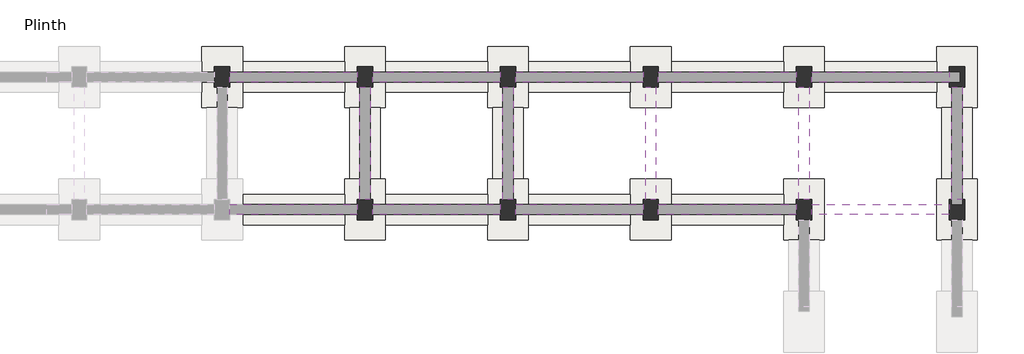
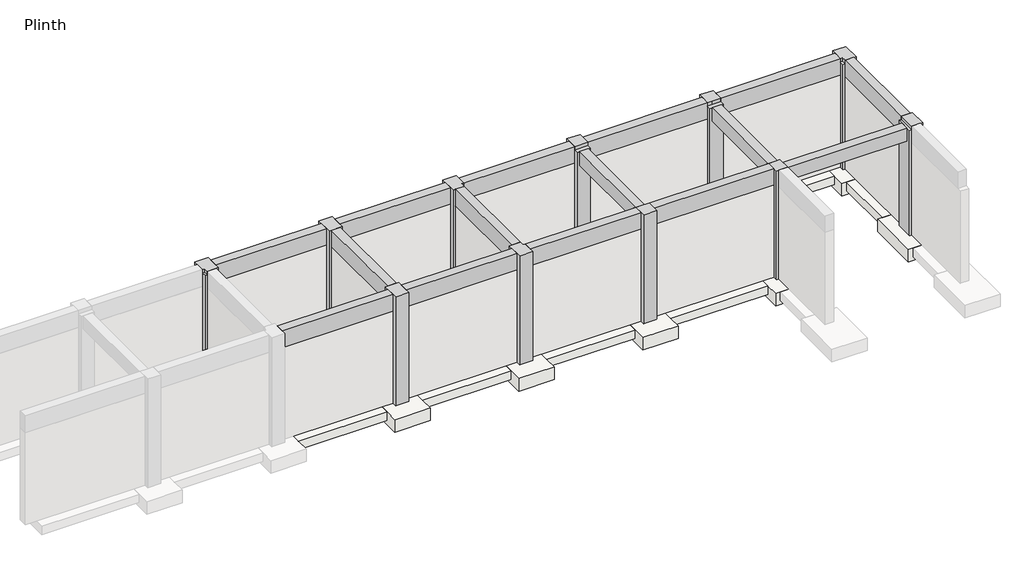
# One storey, part 3 of 3: 15 beams, 13 footings, 11 columns, 11 slabs.
"""IFC4 building model written with IfcOpenShell, lengths in millimetres."""

from ifc_helpers import new_model, si_unit, frame, origin, origin_with_axes, place, context, project, spatial, polyline, outline, extrude, faceted_brep, element, save

model = new_model("IFC4")

# Units and contexts
model_context = context("Model", 3, world=origin())
ifc_project = project(units=[si_unit("LENGTHUNIT", "METRE", prefix="MILLI")], contexts=[model_context])

# Site, building, storey
site = spatial("IfcSite", under=ifc_project)
building = spatial("IfcBuilding", under=site)
storey = spatial("IfcBuildingStorey", under=building, Name="Plinth", Elevation=304.8)

# Beams
placement = place(None, origin())
element("IfcBeam", 1, ObjectType="Concrete-Rectangular Beam : 12 x 24", at=placement, inside=storey, context=model_context, shape_type="SweptSolid", body=[
    extrude(outline(polyline([(-11678.9781752, 17712.9470864), (-11983.7781752, 17712.9470864), (-11983.7781752, 21065.7470864), (-11678.9781752, 21065.7470864), (-11678.9781752, 17712.9470864)])), frame((0.0, 0.0, 3657.6), z_axis=(0.0, 0.0, 1.0), x_axis=(1.0, 0.0, 0.0)), (0.0, 0.0, 1.0), 482.6),
])
element("IfcBeam", 2, ObjectType="Concrete-Rectangular Beam : 12 x 24", at=placement, inside=storey, context=model_context, shape_type="SweptSolid", body=[
    extrude(outline(polyline([(-7411.7781752, 21065.7470864), (-7106.9781752, 21065.7470864), (-7106.9781752, 17712.9470864), (-7411.7781752, 17712.9470864), (-7411.7781752, 21065.7470864)])), frame((0.0, 0.0, 3657.6), z_axis=(0.0, 0.0, 1.0), x_axis=(1.0, 0.0, 0.0)), (0.0, 0.0, 1.0), 482.6),
])
element("IfcBeam", 3, ObjectType="Concrete-Rectangular Beam : 12 x 24", at=placement, inside=storey, context=model_context, shape_type="SweptSolid", body=[
    extrude(outline(polyline([(-7030.7781752, 17255.7470864), (-7030.7781752, 17560.5470864), (-2915.9781752, 17560.5470864), (-2915.9781752, 17255.7470864), (-7030.7781752, 17255.7470864)])), frame((0.0, 0.0, 3657.6), z_axis=(0.0, 0.0, 1.0), x_axis=(1.0, 0.0, 0.0)), (0.0, 0.0, 1.0), 482.6),
])
element("IfcBeam", 4, ObjectType="Concrete-Rectangular Beam : 12 x 24", at=placement, inside=storey, context=model_context, shape_type="SweptSolid", body=[
    extrude(outline(polyline([(-20518.1781752, 21065.7470864), (-20213.3781752, 21065.7470864), (-20213.3781752, 17712.9470864), (-20518.1781752, 17712.9470864), (-20518.1781752, 21065.7470864)])), frame((0.0, 0.0, 3657.6), z_axis=(0.0, 0.0, 1.0), x_axis=(1.0, 0.0, 0.0)), (0.0, 0.0, 1.0), 609.6),
])
element("IfcBeam", 5, ObjectType="Concrete-Rectangular Beam : 12 x 24", at=placement, inside=storey, context=model_context, shape_type="SweptSolid", body=[
    extrude(outline(polyline([(-20137.1781752, 21218.1470864), (-20137.1781752, 21522.9470864), (-16327.1781752, 21522.9470864), (-16327.1781752, 21218.1470864), (-20137.1781752, 21218.1470864)])), frame((0.0, 0.0, 3657.6), z_axis=(0.0, 0.0, 1.0), x_axis=(1.0, 0.0, 0.0)), (0.0, 0.0, 1.0), 609.6),
])
element("IfcBeam", 6, ObjectType="Concrete-Rectangular Beam : 12 x 24", at=placement, inside=storey, context=model_context, shape_type="Brep", body=[
    faceted_brep([(-15869.9781752, 21522.9470864, 4267.2), (-15869.9781752, 21218.1470864, 4267.2), (-12059.9781752, 21218.1470864, 4267.2), (-12059.9781752, 21522.9470864, 4267.2), (-15869.9781752, 21218.1470864, 4140.2), (-15869.9781752, 21218.1470864, 3657.6), (-12059.9781752, 21218.1470864, 3657.6), (-12059.9781752, 21218.1470864, 4140.2), (-15869.9781752, 21522.9470864, 3657.6), (-12059.9781752, 21522.9470864, 3657.6)], [[[0, 1, 2, 3]], [[1, 4, 5, 6, 7, 2]], [[5, 8, 9, 6]], [[8, 0, 3, 9]], [[1, 0, 8, 5, 4]], [[3, 2, 7, 6, 9]]]),
])
element("IfcBeam", 7, ObjectType="Concrete-Rectangular Beam : 12 x 24", at=placement, inside=storey, context=model_context, shape_type="Brep", body=[
    faceted_brep([(-11602.7781752, 21522.9470864, 4267.2), (-11602.7781752, 21218.1470864, 4267.2), (-7487.9781752, 21218.1470864, 4267.2), (-7487.9781752, 21522.9470864, 4267.2), (-11602.7781752, 21218.1470864, 4140.2), (-11602.7781752, 21218.1470864, 3657.6), (-7487.9781752, 21218.1470864, 3657.6), (-7487.9781752, 21218.1470864, 4140.2), (-11602.7781752, 21522.9470864, 3657.6), (-7487.9781752, 21522.9470864, 3657.6)], [[[0, 1, 2, 3]], [[1, 4, 5, 6, 7, 2]], [[5, 8, 9, 6]], [[8, 0, 3, 9]], [[1, 0, 8, 5, 4]], [[3, 2, 7, 6, 9]]]),
])
element("IfcBeam", 8, ObjectType="Concrete-Rectangular Beam : 12 x 24", at=placement, inside=storey, context=model_context, shape_type="Brep", body=[
    faceted_brep([(-7030.7781752, 21522.9470864, 4267.2), (-7030.7781752, 21218.1470864, 4267.2), (-2915.9781752, 21218.1470864, 4267.2), (-2915.9781752, 21522.9470864, 4267.2), (-7030.7781752, 21218.1470864, 4140.2), (-7030.7781752, 21218.1470864, 3657.6), (-2915.9781752, 21218.1470864, 3657.6), (-2915.9781752, 21218.1470864, 4140.2), (-7030.7781752, 21522.9470864, 3657.6), (-2915.9781752, 21522.9470864, 3657.6)], [[[0, 1, 2, 3]], [[1, 4, 5, 6, 7, 2]], [[5, 8, 9, 6]], [[8, 0, 3, 9]], [[1, 0, 8, 5, 4]], [[3, 2, 7, 6, 9]]]),
])
element("IfcBeam", 9, ObjectType="Concrete-Rectangular Beam : 12 x 24", at=placement, inside=storey, context=model_context, shape_type="Brep", body=[
    faceted_brep([(-15946.1781752, 21065.7470864, 4267.2), (-16250.9781752, 21065.7470864, 4267.2), (-16250.9781752, 17712.9470864, 4267.2), (-15946.1781752, 17712.9470864, 4267.2), (-16250.9781752, 21065.7470864, 3657.6), (-16250.9781752, 17712.9470864, 3657.6), (-15946.1781752, 21065.7470864, 3657.6), (-15946.1781752, 17712.9470864, 3657.6), (-15946.1781752, 21065.7470864, 4140.2), (-15946.1781752, 17712.9470864, 4140.2)], [[[0, 1, 2, 3]], [[1, 4, 5, 2]], [[4, 6, 7, 5]], [[6, 8, 0, 3, 9, 7]], [[1, 0, 8, 6, 4]], [[3, 2, 5, 7, 9]]]),
])
element("IfcBeam", 10, ObjectType="Concrete-Rectangular Beam : 12 x 24", at=placement, inside=storey, context=model_context, shape_type="Brep", body=[
    faceted_brep([(-2534.9781752, 21065.7470864, 4267.2), (-2839.7781752, 21065.7470864, 4267.2), (-2839.7781752, 17712.9470864, 4267.2), (-2534.9781752, 17712.9470864, 4267.2), (-2839.7781752, 21065.7470864, 4140.2), (-2839.7781752, 21065.7470864, 3657.6), (-2839.7781752, 17712.9470864, 3657.6), (-2839.7781752, 17712.9470864, 4140.2), (-2534.9781752, 21065.7470864, 3657.6), (-2534.9781752, 17712.9470864, 3657.6)], [[[0, 1, 2, 3]], [[1, 4, 5, 6, 7, 2]], [[5, 8, 9, 6]], [[8, 0, 3, 9]], [[1, 0, 8, 5, 4]], [[3, 2, 7, 6, 9]]]),
])
element("IfcBeam", 11, ObjectType="Concrete-Rectangular Beam : 12 x 24", at=placement, inside=storey, context=model_context, shape_type="Brep", body=[
    faceted_brep([(-11602.7781752, 17560.5470864, 4267.2), (-11602.7781752, 17255.7470864, 4267.2), (-7487.9781752, 17255.7470864, 4267.2), (-7487.9781752, 17560.5470864, 4267.2), (-11602.7781752, 17255.7470864, 3657.6), (-7487.9781752, 17255.7470864, 3657.6), (-11602.7781752, 17560.5470864, 3657.6), (-7487.9781752, 17560.5470864, 3657.6), (-7487.9781752, 17560.5470864, 4140.2), (-11602.7781752, 17560.5470864, 4140.2)], [[[0, 1, 2, 3]], [[1, 4, 5, 2]], [[4, 6, 7, 5]], [[0, 3, 8, 7, 6, 9]], [[1, 0, 9, 6, 4]], [[3, 2, 5, 7, 8]]]),
])
element("IfcBeam", 12, ObjectType="Concrete-Rectangular Beam : 12 x 24", at=placement, inside=storey, context=model_context, shape_type="SweptSolid", body=[
    extrude(outline(polyline([(-20137.1781752, 17255.7470864), (-20137.1781752, 17560.5470864), (-16327.1781752, 17560.5470864), (-16327.1781752, 17255.7470864), (-20137.1781752, 17255.7470864)])), frame((0.0, 0.0, 3657.6), z_axis=(0.0, 0.0, 1.0), x_axis=(1.0, 0.0, 0.0)), (0.0, 0.0, 1.0), 609.6),
])
element("IfcBeam", 13, ObjectType="Concrete-Rectangular Beam : 12 x 24", at=placement, inside=storey, context=model_context, shape_type="Brep", body=[
    faceted_brep([(-12059.9781752, 17560.5470864, 4267.2), (-15869.9781752, 17560.5470864, 4267.2), (-15869.9781752, 17255.7470864, 4267.2), (-12059.9781752, 17255.7470864, 4267.2), (-15869.9781752, 17255.7470864, 3657.6), (-12059.9781752, 17255.7470864, 3657.6), (-15869.9781752, 17560.5470864, 3657.6), (-12059.9781752, 17560.5470864, 3657.6), (-12059.9781752, 17560.5470864, 4140.2), (-15869.9781752, 17560.5470864, 4140.2)], [[[0, 1, 2, 3]], [[3, 2, 4, 5]], [[5, 4, 6, 7]], [[1, 0, 8, 7, 6, 9]], [[2, 1, 9, 6, 4]], [[0, 3, 5, 7, 8]]]),
])
element("IfcBeam", 14, ObjectType="Concrete-Rectangular Beam : 12 x 24", at=placement, inside=storey, context=model_context, shape_type="SweptSolid", body=[
    extrude(outline(polyline([(-24404.3781752, 21218.1470864), (-24404.3781752, 21522.9470864), (-20594.3781752, 21522.9470864), (-20594.3781752, 21218.1470864), (-24404.3781752, 21218.1470864)])), frame((0.0, 0.0, 3657.6), z_axis=(0.0, 0.0, 1.0), x_axis=(1.0, 0.0, 0.0)), (0.0, 0.0, 1.0), 609.6),
])
element("IfcBeam", 15, ObjectType="Concrete-Rectangular Beam : 12 x 24", at=placement, inside=storey, context=model_context, shape_type="SweptSolid", body=[
    extrude(outline(polyline([(-20594.3781752, 17560.5470864), (-20594.3781752, 17255.7470864), (-24404.3781752, 17255.7470864), (-24404.3781752, 17560.5470864), (-20594.3781752, 17560.5470864)])), frame((0.0, 0.0, 3657.6), z_axis=(0.0, 0.0, 1.0), x_axis=(1.0, 0.0, 0.0)), (0.0, 0.0, 1.0), 609.6),
])

# Columns
element("IfcColumn", 16, ObjectType="Concrete-Rectangular-Column : 18 x 24", at=placement, inside=storey, context=model_context, shape_type="Brep", body=[
    faceted_brep([(-20137.1781752, 21675.3470864, 304.8), (-20137.1781752, 21522.9470864, 304.8), (-20137.1781752, 21218.1470864, 304.8), (-20137.1781752, 21065.7470864, 304.8), (-20213.3781752, 21065.7470864, 304.8), (-20518.1781752, 21065.7470864, 304.8), (-20594.3781752, 21065.7470864, 304.8), (-20594.3781752, 21218.1470864, 304.8), (-20594.3781752, 21522.9470864, 304.8), (-20594.3781752, 21675.3470864, 304.8), (-20137.1781752, 21675.3470864, 4267.2), (-20137.1781752, 21065.7470864, 4267.2), (-20594.3781752, 21065.7470864, 4267.2), (-20594.3781752, 21675.3470864, 4267.2)], [[[0, 1, 2, 3, 4, 5, 6, 7, 8, 9]], [[10, 11, 3, 2, 1, 0]], [[11, 12, 6, 5, 4, 3]], [[12, 13, 9, 8, 7, 6]], [[13, 10, 0, 9]], [[10, 13, 12, 11]]]),
])
element("IfcColumn", 17, ObjectType="Concrete-Rectangular-Column : 18 x 24", at=placement, inside=storey, context=model_context, shape_type="Brep", body=[
    faceted_brep([(-15869.9781752, 21675.3470864, 304.8), (-15869.9781752, 21522.9470864, 304.8), (-15869.9781752, 21218.1470864, 304.8), (-15869.9781752, 21065.7470864, 304.8), (-15946.1781752, 21065.7470864, 304.8), (-16250.9781752, 21065.7470864, 304.8), (-16327.1781752, 21065.7470864, 304.8), (-16327.1781752, 21218.1470864, 304.8), (-16327.1781752, 21522.9470864, 304.8), (-16327.1781752, 21675.3470864, 304.8), (-15869.9781752, 21675.3470864, 4267.2), (-15869.9781752, 21218.1470864, 4267.2), (-15869.9781752, 21218.1470864, 4140.2), (-15869.9781752, 21065.7470864, 4140.2), (-15946.1781752, 21065.7470864, 4140.2), (-15946.1781752, 21065.7470864, 4267.2), (-16327.1781752, 21065.7470864, 4267.2), (-16327.1781752, 21675.3470864, 4267.2), (-15946.1781752, 21218.1470864, 4267.2), (-15946.1781752, 21218.1470864, 4140.2)], [[[0, 1, 2, 3, 4, 5, 6, 7, 8, 9]], [[3, 2, 1, 0, 10, 11, 12, 13]], [[6, 5, 4, 3, 13, 14, 15, 16]], [[9, 8, 7, 6, 16, 17]], [[0, 9, 17, 10]], [[17, 16, 15, 18, 11, 10]], [[12, 19, 14, 13]], [[19, 18, 15, 14]], [[18, 19, 12, 11]]]),
])
element("IfcColumn", 18, ObjectType="Concrete-Rectangular-Column : 18 x 24", at=placement, inside=storey, context=model_context, shape_type="Brep", body=[
    faceted_brep([(-11602.7781752, 21675.3470864, 304.8), (-11602.7781752, 21522.9470864, 304.8), (-11602.7781752, 21218.1470864, 304.8), (-11602.7781752, 21065.7470864, 304.8), (-12059.9781752, 21065.7470864, 304.8), (-12059.9781752, 21218.1470864, 304.8), (-12059.9781752, 21522.9470864, 304.8), (-12059.9781752, 21675.3470864, 304.8), (-11602.7781752, 21675.3470864, 4267.2), (-11602.7781752, 21218.1470864, 4267.2), (-11602.7781752, 21218.1470864, 4140.2), (-11602.7781752, 21065.7470864, 4140.2), (-12059.9781752, 21065.7470864, 4140.2), (-12059.9781752, 21218.1470864, 4140.2), (-12059.9781752, 21218.1470864, 4267.2), (-12059.9781752, 21675.3470864, 4267.2)], [[[0, 1, 2, 3, 4, 5, 6, 7]], [[3, 2, 1, 0, 8, 9, 10, 11]], [[4, 3, 11, 12]], [[7, 6, 5, 4, 12, 13, 14, 15]], [[0, 7, 15, 8]], [[8, 15, 14, 9]], [[10, 13, 12, 11]], [[13, 10, 9, 14]]]),
])
element("IfcColumn", 19, ObjectType="Concrete-Rectangular-Column : 18 x 24", at=placement, inside=storey, context=model_context, shape_type="Brep", body=[
    faceted_brep([(-7030.7781752, 21675.3470864, 304.8), (-7030.7781752, 21522.9470864, 304.8), (-7030.7781752, 21218.1470864, 304.8), (-7030.7781752, 21065.7470864, 304.8), (-7487.9781752, 21065.7470864, 304.8), (-7487.9781752, 21218.1470864, 304.8), (-7487.9781752, 21522.9470864, 304.8), (-7487.9781752, 21675.3470864, 304.8), (-7030.7781752, 21675.3470864, 4267.2), (-7030.7781752, 21218.1470864, 4267.2), (-7030.7781752, 21218.1470864, 4140.2), (-7030.7781752, 21065.7470864, 4140.2), (-7487.9781752, 21065.7470864, 4140.2), (-7487.9781752, 21218.1470864, 4140.2), (-7487.9781752, 21218.1470864, 4267.2), (-7487.9781752, 21675.3470864, 4267.2), (-7337.9512179, 21218.1470864, 4267.2), (-7337.9512179, 21218.1470864, 4140.2)], [[[0, 1, 2, 3, 4, 5, 6, 7]], [[3, 2, 1, 0, 8, 9, 10, 11]], [[4, 3, 11, 12]], [[7, 6, 5, 4, 12, 13, 14, 15]], [[0, 7, 15, 8]], [[8, 15, 14, 16, 9]], [[10, 17, 13, 12, 11]], [[17, 16, 14, 13]], [[16, 17, 10, 9]]]),
])
element("IfcColumn", 20, ObjectType="Concrete-Rectangular-Column : 18 x 24", at=placement, inside=storey, context=model_context, shape_type="Brep", body=[
    faceted_brep([(-2458.7781752, 21675.3470864, 304.8), (-2458.7781752, 21065.7470864, 304.8), (-2534.9781752, 21065.7470864, 304.8), (-2839.7781752, 21065.7470864, 304.8), (-2915.9781752, 21065.7470864, 304.8), (-2915.9781752, 21218.1470864, 304.8), (-2611.1781752, 21218.1470864, 304.8), (-2611.1781752, 21522.9470864, 304.8), (-2915.9781752, 21522.9470864, 304.8), (-2915.9781752, 21675.3470864, 304.8), (-2458.7781752, 21675.3470864, 4267.2), (-2458.7781752, 21065.7470864, 4267.2), (-2839.7781752, 21065.7470864, 4267.2), (-2839.7781752, 21065.7470864, 4140.2), (-2915.9781752, 21065.7470864, 4140.2), (-2915.9781752, 21675.3470864, 4267.2), (-2915.9781752, 21522.9470864, 3657.6), (-2915.9781752, 21218.1470864, 3657.6), (-2915.9781752, 21218.1470864, 4140.2), (-2915.9781752, 21218.1470864, 4267.2), (-2839.7781752, 21218.1470864, 4267.2), (-2611.1781752, 21218.1470864, 3657.6), (-2611.1781752, 21522.9470864, 3657.6), (-2839.7781752, 21218.1470864, 4140.2)], [[[0, 1, 2, 3, 4, 5, 6, 7, 8, 9]], [[1, 0, 10, 11]], [[4, 3, 2, 1, 11, 12, 13, 14]], [[15, 9, 8, 16, 17, 5, 4, 14, 18, 19]], [[0, 9, 15, 10]], [[11, 10, 15, 19, 20, 12]], [[21, 6, 5, 17]], [[7, 22, 16, 8]], [[6, 21, 22, 7]], [[22, 21, 17, 16]], [[13, 23, 18, 14]], [[23, 20, 19, 18]], [[20, 23, 13, 12]]]),
])
element("IfcColumn", 21, ObjectType="Concrete-Rectangular-Column : 18 x 24", at=placement, inside=storey, context=model_context, shape_type="Brep", body=[
    faceted_brep([(-20137.1781752, 17712.9470864, 304.8), (-20137.1781752, 17560.5470864, 304.8), (-20137.1781752, 17255.7470864, 304.8), (-20137.1781752, 17103.3470864, 304.8), (-20594.3781752, 17103.3470864, 304.8), (-20594.3781752, 17255.7470864, 304.8), (-20594.3781752, 17560.5470864, 304.8), (-20594.3781752, 17712.9470864, 304.8), (-20518.1781752, 17712.9470864, 304.8), (-20213.3781752, 17712.9470864, 304.8), (-20137.1781752, 17712.9470864, 4267.2), (-20137.1781752, 17103.3470864, 4267.2), (-20594.3781752, 17103.3470864, 4267.2), (-20594.3781752, 17712.9470864, 4267.2)], [[[0, 1, 2, 3, 4, 5, 6, 7, 8, 9]], [[10, 11, 3, 2, 1, 0]], [[11, 12, 4, 3]], [[12, 13, 7, 6, 5, 4]], [[13, 10, 0, 9, 8, 7]], [[10, 13, 12, 11]]]),
])
element("IfcColumn", 22, ObjectType="Concrete-Rectangular-Column : 18 x 24", at=placement, inside=storey, context=model_context, shape_type="Brep", body=[
    faceted_brep([(-15869.9781752, 17712.9470864, 304.8), (-15869.9781752, 17560.5470864, 304.8), (-15869.9781752, 17255.7470864, 304.8), (-15869.9781752, 17103.3470864, 304.8), (-16327.1781752, 17103.3470864, 304.8), (-16327.1781752, 17255.7470864, 304.8), (-16327.1781752, 17560.5470864, 304.8), (-16327.1781752, 17712.9470864, 304.8), (-16250.9781752, 17712.9470864, 304.8), (-15946.1781752, 17712.9470864, 304.8), (-15869.9781752, 17712.9470864, 4140.2), (-15869.9781752, 17560.5470864, 4140.2), (-15869.9781752, 17560.5470864, 4267.2), (-15869.9781752, 17103.3470864, 4267.2), (-16327.1781752, 17103.3470864, 4267.2), (-16327.1781752, 17712.9470864, 4267.2), (-15946.1781752, 17712.9470864, 4267.2), (-15946.1781752, 17712.9470864, 4140.2), (-15946.1781752, 17560.5470864, 4267.2), (-15946.1781752, 17560.5470864, 4140.2)], [[[0, 1, 2, 3, 4, 5, 6, 7, 8, 9]], [[3, 2, 1, 0, 10, 11, 12, 13]], [[4, 3, 13, 14]], [[7, 6, 5, 4, 14, 15]], [[0, 9, 8, 7, 15, 16, 17, 10]], [[14, 13, 12, 18, 16, 15]], [[19, 11, 10, 17]], [[18, 19, 17, 16]], [[19, 18, 12, 11]]]),
])
element("IfcColumn", 23, ObjectType="Concrete-Rectangular-Column : 18 x 24", at=placement, inside=storey, context=model_context, shape_type="Brep", body=[
    faceted_brep([(-11602.7781752, 17712.9470864, 304.8), (-11602.7781752, 17560.5470864, 304.8), (-11602.7781752, 17255.7470864, 304.8), (-11602.7781752, 17103.3470864, 304.8), (-12059.9781752, 17103.3470864, 304.8), (-12059.9781752, 17255.7470864, 304.8), (-12059.9781752, 17560.5470864, 304.8), (-12059.9781752, 17712.9470864, 304.8), (-11602.7781752, 17712.9470864, 4140.2), (-11602.7781752, 17560.5470864, 4140.2), (-11602.7781752, 17560.5470864, 4267.2), (-11602.7781752, 17103.3470864, 4267.2), (-12059.9781752, 17103.3470864, 4267.2), (-12059.9781752, 17560.5470864, 4267.2), (-12059.9781752, 17560.5470864, 4140.2), (-12059.9781752, 17712.9470864, 4140.2), (-11869.525863, 17560.5470864, 4267.2), (-11869.525863, 17560.5470864, 4140.2)], [[[0, 1, 2, 3, 4, 5, 6, 7]], [[3, 2, 1, 0, 8, 9, 10, 11]], [[4, 3, 11, 12]], [[7, 6, 5, 4, 12, 13, 14, 15]], [[0, 7, 15, 8]], [[12, 11, 10, 16, 13]], [[14, 17, 9, 8, 15]], [[17, 16, 10, 9]], [[16, 17, 14, 13]]]),
])
element("IfcColumn", 24, ObjectType="Concrete-Rectangular-Column : 18 x 24", at=placement, inside=storey, context=model_context, shape_type="Brep", body=[
    faceted_brep([(-7030.7781752, 17712.9470864, 304.8), (-7030.7781752, 17103.3470864, 304.8), (-7106.9781752, 17103.3470864, 304.8), (-7411.7781752, 17103.3470864, 304.8), (-7487.9781752, 17103.3470864, 304.8), (-7487.9781752, 17255.7470864, 304.8), (-7487.9781752, 17560.5470864, 304.8), (-7487.9781752, 17712.9470864, 304.8), (-7030.7781752, 17712.9470864, 4140.2), (-7030.7781752, 17103.3470864, 4140.2), (-7106.9781752, 17103.3470864, 4140.2), (-7106.9781752, 17103.3470864, 4267.2), (-7487.9781752, 17103.3470864, 4267.2), (-7487.9781752, 17560.5470864, 4267.2), (-7487.9781752, 17560.5470864, 4140.2), (-7487.9781752, 17712.9470864, 4140.2), (-7106.9781752, 17560.5470864, 4267.2), (-7106.9781752, 17560.5470864, 4140.2)], [[[0, 1, 2, 3, 4, 5, 6, 7]], [[1, 0, 8, 9]], [[4, 3, 2, 1, 9, 10, 11, 12]], [[7, 6, 5, 4, 12, 13, 14, 15]], [[0, 7, 15, 8]], [[13, 12, 11, 16]], [[14, 17, 10, 9, 8, 15]], [[17, 16, 11, 10]], [[16, 17, 14, 13]]]),
])
element("IfcColumn", 25, ObjectType="Concrete-Rectangular-Column : 18 x 24", at=placement, inside=storey, context=model_context, shape_type="Brep", body=[
    faceted_brep([(-2458.7781752, 17712.9470864, 304.8), (-2458.7781752, 17103.3470864, 304.8), (-2534.9781752, 17103.3470864, 304.8), (-2839.7781752, 17103.3470864, 304.8), (-2915.9781752, 17103.3470864, 304.8), (-2915.9781752, 17712.9470864, 304.8), (-2839.7781752, 17712.9470864, 304.8), (-2839.7781752, 17560.5470864, 304.8), (-2534.9781752, 17560.5470864, 304.8), (-2534.9781752, 17712.9470864, 304.8), (-2458.7781752, 17712.9470864, 4267.2), (-2458.7781752, 17103.3470864, 4267.2), (-2839.7781752, 17103.3470864, 4267.2), (-2839.7781752, 17103.3470864, 4140.2), (-2915.9781752, 17103.3470864, 4140.2), (-2915.9781752, 17712.9470864, 4140.2), (-2534.9781752, 17712.9470864, 3657.6), (-2839.7781752, 17712.9470864, 3657.6), (-2839.7781752, 17712.9470864, 4140.2), (-2839.7781752, 17712.9470864, 4267.2), (-2839.7781752, 17107.3073578, 4267.2), (-2839.7781752, 17560.5470864, 3657.6), (-2534.9781752, 17560.5470864, 3657.6), (-2839.7781752, 17107.3073578, 4140.2)], [[[0, 1, 2, 3, 4, 5, 6, 7, 8, 9]], [[1, 0, 10, 11]], [[4, 3, 2, 1, 11, 12, 13, 14]], [[5, 4, 14, 15]], [[10, 0, 9, 16, 17, 6, 5, 15, 18, 19]], [[11, 10, 19, 20, 12]], [[21, 7, 6, 17]], [[22, 21, 17, 16]], [[22, 8, 7, 21]], [[8, 22, 16, 9]], [[13, 23, 18, 15, 14]], [[23, 20, 19, 18]], [[20, 23, 13, 12]]]),
])
element("IfcColumn", 26, ObjectType="Concrete-Rectangular-Column : 18 x 24", at=placement, inside=storey, context=model_context, shape_type="Brep", body=[
    faceted_brep([(-24861.5781752, 21065.7470864, 304.8), (-24861.5781752, 21218.1470864, 304.8), (-24861.5781752, 21522.9470864, 304.8), (-24861.5781752, 21675.3470864, 304.8), (-24404.3781752, 21675.3470864, 304.8), (-24404.3781752, 21522.9470864, 304.8), (-24404.3781752, 21218.1470864, 304.8), (-24404.3781752, 21065.7470864, 304.8), (-24480.5781752, 21065.7470864, 304.8), (-24785.3781752, 21065.7470864, 304.8), (-24861.5781752, 21065.7470864, 4140.2), (-24861.5781752, 21218.1470864, 4140.2), (-24861.5781752, 21218.1470864, 4267.2), (-24861.5781752, 21675.3470864, 4267.2), (-24404.3781752, 21065.7470864, 4267.2), (-24785.3781752, 21065.7470864, 4267.2), (-24785.3781752, 21065.7470864, 4140.2), (-24404.3781752, 21675.3470864, 4267.2), (-24785.3781752, 21218.1470864, 4267.2), (-24785.3781752, 21218.1470864, 4140.2)], [[[0, 1, 2, 3, 4, 5, 6, 7, 8, 9]], [[3, 2, 1, 0, 10, 11, 12, 13]], [[0, 9, 8, 7, 14, 15, 16, 10]], [[7, 6, 5, 4, 17, 14]], [[4, 3, 13, 17]], [[14, 17, 13, 12, 18, 15]], [[16, 19, 11, 10]], [[18, 19, 16, 15]], [[19, 18, 12, 11]]]),
])

# Footings
element("IfcFooting", 27, ObjectType="Bearing Footing - 36\" x 12\"", at=placement, inside=storey, context=model_context, shape_type="SweptSolid", body=[
    extrude(outline(polyline([(-19756.1781752, 20913.3470864), (-19756.1781752, 21827.7470864), (-16708.1781752, 21827.7470864), (-16708.1781752, 20913.3470864), (-19756.1781752, 20913.3470864)])), origin_with_axes(), (0.0, 0.0, 1.0), 304.8),
])
element("IfcFooting", 28, ObjectType="Bearing Footing - 36\" x 12\"", at=placement, inside=storey, context=model_context, shape_type="SweptSolid", body=[
    extrude(outline(polyline([(-15488.9781752, 20913.3470864), (-15488.9781752, 21827.7470864), (-12440.9781752, 21827.7470864), (-12440.9781752, 20913.3470864), (-15488.9781752, 20913.3470864)])), origin_with_axes(), (0.0, 0.0, 1.0), 304.8),
])
element("IfcFooting", 29, ObjectType="Bearing Footing - 36\" x 12\"", at=placement, inside=storey, context=model_context, shape_type="SweptSolid", body=[
    extrude(outline(polyline([(-11221.7781752, 20913.3470864), (-11221.7781752, 21827.7470864), (-7868.9781752, 21827.7470864), (-7868.9781752, 20913.3470864), (-11221.7781752, 20913.3470864)])), origin_with_axes(), (0.0, 0.0, 1.0), 304.8),
])
element("IfcFooting", 30, ObjectType="Bearing Footing - 36\" x 12\"", at=placement, inside=storey, context=model_context, shape_type="SweptSolid", body=[
    extrude(outline(polyline([(-6649.7781752, 20913.3470864), (-6649.7781752, 21827.7470864), (-3296.9781752, 21827.7470864), (-3296.9781752, 20913.3470864), (-6649.7781752, 20913.3470864)])), origin_with_axes(), (0.0, 0.0, 1.0), 304.8),
])
element("IfcFooting", 31, ObjectType="Bearing Footing - 36\" x 12\"", at=placement, inside=storey, context=model_context, shape_type="SweptSolid", body=[
    extrude(outline(polyline([(-3144.5781752, 20456.1470864), (-2230.1781752, 20456.1470864), (-2230.1781752, 18322.5470864), (-3144.5781752, 18322.5470864), (-3144.5781752, 20456.1470864)])), origin_with_axes(), (0.0, 0.0, 1.0), 304.8),
])
element("IfcFooting", 32, ObjectType="Bearing Footing - 36\" x 12\"", at=placement, inside=storey, context=model_context, shape_type="SweptSolid", body=[
    extrude(outline(polyline([(-11221.7781752, 16950.9470864), (-11221.7781752, 17865.3470864), (-7868.9781752, 17865.3470864), (-7868.9781752, 16950.9470864), (-11221.7781752, 16950.9470864)])), origin_with_axes(), (0.0, 0.0, 1.0), 304.8),
])
element("IfcFooting", 33, ObjectType="Bearing Footing - 36\" x 12\"", at=placement, inside=storey, context=model_context, shape_type="SweptSolid", body=[
    extrude(outline(polyline([(-15488.9781752, 16950.9470864), (-15488.9781752, 17865.3470864), (-12440.9781752, 17865.3470864), (-12440.9781752, 16950.9470864), (-15488.9781752, 16950.9470864)])), origin_with_axes(), (0.0, 0.0, 1.0), 304.8),
])
element("IfcFooting", 34, ObjectType="Bearing Footing - 36\" x 12\"", at=placement, inside=storey, context=model_context, shape_type="SweptSolid", body=[
    extrude(outline(polyline([(-16555.7781752, 20456.1470864), (-15641.3781752, 20456.1470864), (-15641.3781752, 18322.5470864), (-16555.7781752, 18322.5470864), (-16555.7781752, 20456.1470864)])), origin_with_axes(), (0.0, 0.0, 1.0), 304.8),
])
element("IfcFooting", 35, ObjectType="Bearing Footing - 36\" x 12\"", at=placement, inside=storey, context=model_context, shape_type="SweptSolid", body=[
    extrude(outline(polyline([(-16708.1781752, 17865.3470864), (-16708.1781752, 16950.9470864), (-19756.1781752, 16950.9470864), (-19756.1781752, 17865.3470864), (-16708.1781752, 17865.3470864)])), origin_with_axes(), (0.0, 0.0, 1.0), 304.8),
])
element("IfcFooting", 36, ObjectType="Bearing Footing - 36\" x 12\"", at=placement, inside=storey, context=model_context, shape_type="SweptSolid", body=[
    extrude(outline(polyline([(-20822.9781752, 20456.1470864), (-19908.5781752, 20456.1470864), (-19908.5781752, 18322.5470864), (-20822.9781752, 18322.5470864), (-20822.9781752, 20456.1470864)])), origin_with_axes(), (0.0, 0.0, 1.0), 304.8),
])
element("IfcFooting", 37, ObjectType="Bearing Footing - 36\" x 12\"", at=placement, inside=storey, context=model_context, shape_type="SweptSolid", body=[
    extrude(outline(polyline([(-20975.3781752, 21827.7470864), (-20975.3781752, 20913.3470864), (-24023.3781752, 20913.3470864), (-24023.3781752, 21827.7470864), (-20975.3781752, 21827.7470864)])), origin_with_axes(), (0.0, 0.0, 1.0), 304.8),
])
element("IfcFooting", 38, ObjectType="Bearing Footing - 36\" x 12\"", at=placement, inside=storey, context=model_context, shape_type="SweptSolid", body=[
    extrude(outline(polyline([(-20975.3781752, 17865.3470864), (-20975.3781752, 16950.9470864), (-24023.3781752, 16950.9470864), (-24023.3781752, 17865.3470864), (-20975.3781752, 17865.3470864)])), origin_with_axes(), (0.0, 0.0, 1.0), 304.8),
])
element("IfcFooting", 39, ObjectType="Bearing Footing - 36\" x 12\"", at=placement, inside=storey, context=model_context, shape_type="SweptSolid", body=[
    extrude(outline(polyline([(-20822.9781752, 20456.1470864), (-19908.5781752, 20456.1470864), (-19908.5781752, 18322.5470864), (-20822.9781752, 18322.5470864), (-20822.9781752, 20456.1470864)])), origin_with_axes(), (0.0, 0.0, 1.0), 304.8),
])

# Slabs
element("IfcSlab", 40, ObjectType="Footing-Rectangular : 72\" x 48\" x 18\"", at=placement, inside=storey, context=model_context, shape_type="Brep", body=[
    faceted_brep([(-19756.1781752, 22284.9470864, 304.8), (-20975.3781752, 22284.9470864, 304.8), (-20975.3781752, 21827.7470864, 304.8), (-20975.3781752, 20913.3470864, 304.8), (-20975.3781752, 20456.1470864, 304.8), (-20822.9781752, 20456.1470864, 304.8), (-19908.5781752, 20456.1470864, 304.8), (-19756.1781752, 20456.1470864, 304.8), (-19756.1781752, 20913.3470864, 304.8), (-19756.1781752, 21827.7470864, 304.8), (-19756.1781752, 22284.9470864, -152.4), (-19756.1781752, 20456.1470864, -152.4), (-20975.3781752, 20456.1470864, -152.4), (-20975.3781752, 22284.9470864, -152.4)], [[[0, 1, 2, 3, 4, 5, 6, 7, 8, 9]], [[10, 11, 12, 13]], [[1, 0, 10, 13]], [[4, 3, 2, 1, 13, 12]], [[7, 6, 5, 4, 12, 11]], [[0, 9, 8, 7, 11, 10]]]),
])
element("IfcSlab", 41, ObjectType="Footing-Rectangular : 72\" x 48\" x 18\"", at=placement, inside=storey, context=model_context, shape_type="Brep", body=[
    faceted_brep([(-16708.1781752, 20456.1470864, 304.8), (-16555.7781752, 20456.1470864, 304.8), (-15641.3781752, 20456.1470864, 304.8), (-15488.9781752, 20456.1470864, 304.8), (-15488.9781752, 20913.3470864, 304.8), (-15488.9781752, 21827.7470864, 304.8), (-15488.9781752, 22284.9470864, 304.8), (-16708.1781752, 22284.9470864, 304.8), (-16708.1781752, 21827.7470864, 304.8), (-16708.1781752, 20913.3470864, 304.8), (-16708.1781752, 20456.1470864, -152.4), (-16708.1781752, 22284.9470864, -152.4), (-15488.9781752, 22284.9470864, -152.4), (-15488.9781752, 20456.1470864, -152.4)], [[[0, 1, 2, 3, 4, 5, 6, 7, 8, 9]], [[10, 11, 12, 13]], [[3, 2, 1, 0, 10, 13]], [[6, 5, 4, 3, 13, 12]], [[7, 6, 12, 11]], [[0, 9, 8, 7, 11, 10]]]),
])
element("IfcSlab", 42, ObjectType="Footing-Rectangular : 72\" x 48\" x 18\"", at=placement, inside=storey, context=model_context, shape_type="Brep", body=[
    faceted_brep([(-12440.9781752, 20456.1470864, 304.8), (-11221.7781752, 20456.1470864, 304.8), (-11221.7781752, 20913.3470864, 304.8), (-11221.7781752, 21827.7470864, 304.8), (-11221.7781752, 22284.9470864, 304.8), (-12440.9781752, 22284.9470864, 304.8), (-12440.9781752, 21827.7470864, 304.8), (-12440.9781752, 20913.3470864, 304.8), (-12440.9781752, 20456.1470864, -152.4), (-12440.9781752, 22284.9470864, -152.4), (-11221.7781752, 22284.9470864, -152.4), (-11221.7781752, 20456.1470864, -152.4)], [[[0, 1, 2, 3, 4, 5, 6, 7]], [[8, 9, 10, 11]], [[1, 0, 8, 11]], [[4, 3, 2, 1, 11, 10]], [[5, 4, 10, 9]], [[0, 7, 6, 5, 9, 8]]]),
])
element("IfcSlab", 43, ObjectType="Footing-Rectangular : 72\" x 48\" x 18\"", at=placement, inside=storey, context=model_context, shape_type="Brep", body=[
    faceted_brep([(-7868.9781752, 20456.1470864, 304.8), (-6649.7781752, 20456.1470864, 304.8), (-6649.7781752, 20913.3470864, 304.8), (-6649.7781752, 21827.7470864, 304.8), (-6649.7781752, 22284.9470864, 304.8), (-7868.9781752, 22284.9470864, 304.8), (-7868.9781752, 21827.7470864, 304.8), (-7868.9781752, 20913.3470864, 304.8), (-7868.9781752, 20456.1470864, -152.4), (-7868.9781752, 22284.9470864, -152.4), (-6649.7781752, 22284.9470864, -152.4), (-6649.7781752, 20456.1470864, -152.4)], [[[0, 1, 2, 3, 4, 5, 6, 7]], [[8, 9, 10, 11]], [[1, 0, 8, 11]], [[4, 3, 2, 1, 11, 10]], [[5, 4, 10, 9]], [[0, 7, 6, 5, 9, 8]]]),
])
element("IfcSlab", 44, ObjectType="Footing-Rectangular : 72\" x 48\" x 18\"", at=placement, inside=storey, context=model_context, shape_type="Brep", body=[
    faceted_brep([(-3296.9781752, 20456.1470864, 304.8), (-3144.5781752, 20456.1470864, 304.8), (-2230.1781752, 20456.1470864, 304.8), (-2077.7781752, 20456.1470864, 304.8), (-2077.7781752, 22284.9470864, 304.8), (-3296.9781752, 22284.9470864, 304.8), (-3296.9781752, 21827.7470864, 304.8), (-3296.9781752, 20913.3470864, 304.8), (-3296.9781752, 20456.1470864, -152.4), (-3296.9781752, 22284.9470864, -152.4), (-2077.7781752, 22284.9470864, -152.4), (-2077.7781752, 20456.1470864, -152.4)], [[[0, 1, 2, 3, 4, 5, 6, 7]], [[8, 9, 10, 11]], [[3, 2, 1, 0, 8, 11]], [[4, 3, 11, 10]], [[5, 4, 10, 9]], [[0, 7, 6, 5, 9, 8]]]),
])
element("IfcSlab", 45, ObjectType="Footing-Rectangular : 72\" x 48\" x 18\"", at=placement, inside=storey, context=model_context, shape_type="Brep", body=[
    faceted_brep([(-16708.1781752, 16493.7470864, 304.8), (-15488.9781752, 16493.7470864, 304.8), (-15488.9781752, 16950.9470864, 304.8), (-15488.9781752, 17865.3470864, 304.8), (-15488.9781752, 18322.5470864, 304.8), (-15641.3781752, 18322.5470864, 304.8), (-16555.7781752, 18322.5470864, 304.8), (-16708.1781752, 18322.5470864, 304.8), (-16708.1781752, 17865.3470864, 304.8), (-16708.1781752, 16950.9470864, 304.8), (-16708.1781752, 16493.7470864, -152.4), (-16708.1781752, 18322.5470864, -152.4), (-15488.9781752, 18322.5470864, -152.4), (-15488.9781752, 16493.7470864, -152.4)], [[[0, 1, 2, 3, 4, 5, 6, 7, 8, 9]], [[10, 11, 12, 13]], [[1, 0, 10, 13]], [[4, 3, 2, 1, 13, 12]], [[7, 6, 5, 4, 12, 11]], [[0, 9, 8, 7, 11, 10]]]),
])
element("IfcSlab", 46, ObjectType="Footing-Rectangular : 72\" x 48\" x 18\"", at=placement, inside=storey, context=model_context, shape_type="Brep", body=[
    faceted_brep([(-12440.9781752, 16493.7470864, 304.8), (-11221.7781752, 16493.7470864, 304.8), (-11221.7781752, 16950.9470864, 304.8), (-11221.7781752, 17865.3470864, 304.8), (-11221.7781752, 18322.5470864, 304.8), (-12440.9781752, 18322.5470864, 304.8), (-12440.9781752, 17865.3470864, 304.8), (-12440.9781752, 16950.9470864, 304.8), (-12440.9781752, 16493.7470864, -152.4), (-12440.9781752, 18322.5470864, -152.4), (-11221.7781752, 18322.5470864, -152.4), (-11221.7781752, 16493.7470864, -152.4)], [[[0, 1, 2, 3, 4, 5, 6, 7]], [[8, 9, 10, 11]], [[1, 0, 8, 11]], [[4, 3, 2, 1, 11, 10]], [[5, 4, 10, 9]], [[0, 7, 6, 5, 9, 8]]]),
])
element("IfcSlab", 47, ObjectType="Footing-Rectangular : 72\" x 48\" x 18\"", at=placement, inside=storey, context=model_context, shape_type="Brep", body=[
    faceted_brep([(-7868.9781752, 16493.7470864, 304.8), (-7716.5781752, 16493.7470864, 304.8), (-6802.1781752, 16493.7470864, 304.8), (-6649.7781752, 16493.7470864, 304.8), (-6649.7781752, 18322.5470864, 304.8), (-7868.9781752, 18322.5470864, 304.8), (-7868.9781752, 17865.3470864, 304.8), (-7868.9781752, 16950.9470864, 304.8), (-7868.9781752, 16493.7470864, -152.4), (-7868.9781752, 18322.5470864, -152.4), (-6649.7781752, 18322.5470864, -152.4), (-6649.7781752, 16493.7470864, -152.4)], [[[0, 1, 2, 3, 4, 5, 6, 7]], [[8, 9, 10, 11]], [[3, 2, 1, 0, 8, 11]], [[4, 3, 11, 10]], [[5, 4, 10, 9]], [[0, 7, 6, 5, 9, 8]]]),
])
element("IfcSlab", 48, ObjectType="Footing-Rectangular : 72\" x 48\" x 18\"", at=placement, inside=storey, context=model_context, shape_type="Brep", body=[
    faceted_brep([(-3296.9781752, 16493.7470864, 304.8), (-3144.5781752, 16493.7470864, 304.8), (-2230.1781752, 16493.7470864, 304.8), (-2077.7781752, 16493.7470864, 304.8), (-2077.7781752, 18322.5470864, 304.8), (-2230.1781752, 18322.5470864, 304.8), (-3144.5781752, 18322.5470864, 304.8), (-3296.9781752, 18322.5470864, 304.8), (-3296.9781752, 16493.7470864, -152.4), (-3296.9781752, 18322.5470864, -152.4), (-2077.7781752, 18322.5470864, -152.4), (-2077.7781752, 16493.7470864, -152.4)], [[[0, 1, 2, 3, 4, 5, 6, 7]], [[8, 9, 10, 11]], [[3, 2, 1, 0, 8, 11]], [[4, 3, 11, 10]], [[7, 6, 5, 4, 10, 9]], [[0, 7, 9, 8]]]),
])
element("IfcSlab", 49, ObjectType="Footing-Rectangular : 72\" x 48\" x 18\"", at=placement, inside=storey, context=model_context, shape_type="Brep", body=[
    faceted_brep([(-20975.3781752, 16493.7470864, 304.8), (-19756.1781752, 16493.7470864, 304.8), (-19756.1781752, 16950.9470864, 304.8), (-19756.1781752, 17865.3470864, 304.8), (-19756.1781752, 18322.5470864, 304.8), (-19908.5781752, 18322.5470864, 304.8), (-20822.9781752, 18322.5470864, 304.8), (-20975.3781752, 18322.5470864, 304.8), (-20975.3781752, 17865.3470864, 304.8), (-20975.3781752, 16950.9470864, 304.8), (-20975.3781752, 16493.7470864, -152.4), (-20975.3781752, 18322.5470864, -152.4), (-19756.1781752, 18322.5470864, -152.4), (-19756.1781752, 16493.7470864, -152.4)], [[[0, 1, 2, 3, 4, 5, 6, 7, 8, 9]], [[10, 11, 12, 13]], [[1, 0, 10, 13]], [[4, 3, 2, 1, 13, 12]], [[7, 6, 5, 4, 12, 11]], [[0, 9, 8, 7, 11, 10]]]),
])
element("IfcSlab", 50, ObjectType="Footing-Rectangular : 72\" x 48\" x 18\"", at=placement, inside=storey, context=model_context, shape_type="Brep", body=[
    faceted_brep([(-24023.3781752, 20456.1470864, 304.8), (-24023.3781752, 20913.3470864, 304.8), (-24023.3781752, 21827.7470864, 304.8), (-24023.3781752, 22284.9470864, 304.8), (-25242.5781752, 22284.9470864, 304.8), (-25242.5781752, 21827.7470864, 304.8), (-25242.5781752, 20913.3470864, 304.8), (-25242.5781752, 20456.1470864, 304.8), (-25090.1781752, 20456.1470864, 304.8), (-24175.7781752, 20456.1470864, 304.8), (-24023.3781752, 20456.1470864, -152.4), (-25242.5781752, 20456.1470864, -152.4), (-25242.5781752, 22284.9470864, -152.4), (-24023.3781752, 22284.9470864, -152.4)], [[[0, 1, 2, 3, 4, 5, 6, 7, 8, 9]], [[10, 11, 12, 13]], [[7, 11, 10, 0, 9, 8]], [[4, 12, 11, 7, 6, 5]], [[3, 13, 12, 4]], [[0, 10, 13, 3, 2, 1]]]),
])

save(model, "model.ifc")
